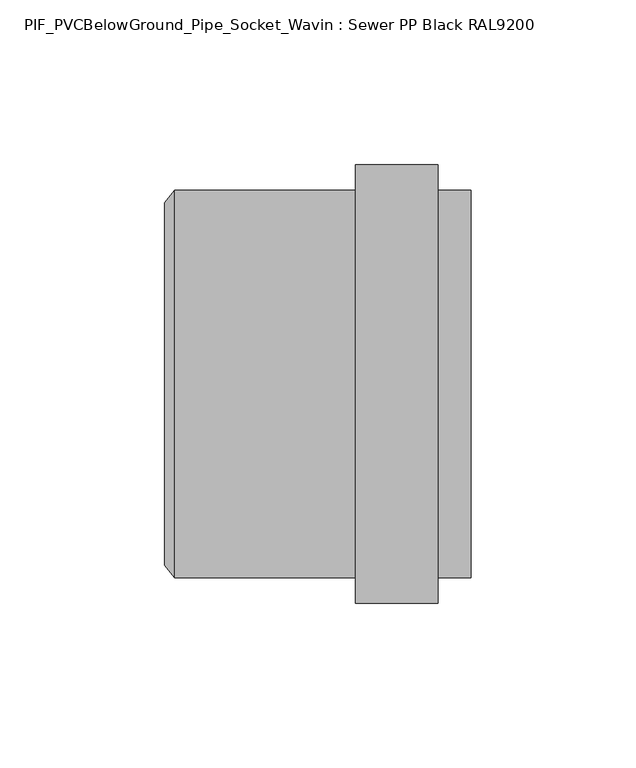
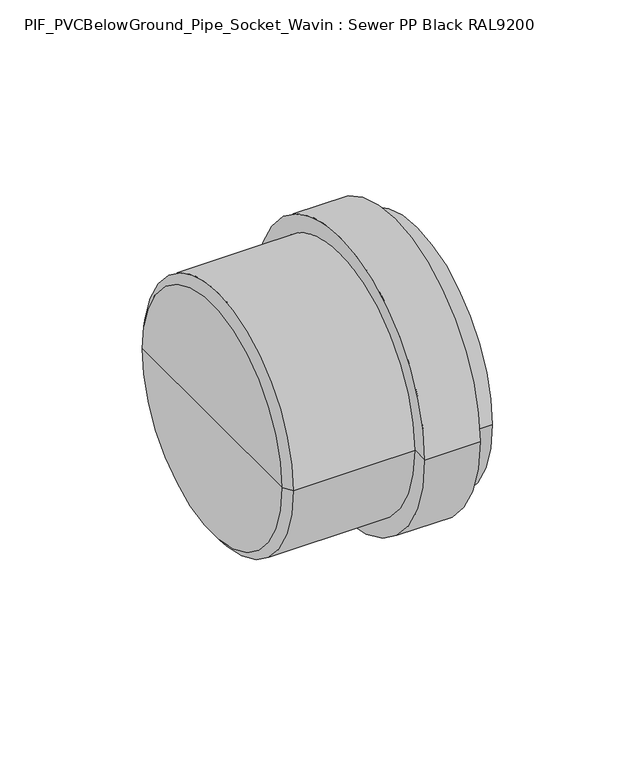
"""IFC4 building model written with IfcOpenShell, lengths in millimetres: pipe fitting geometry, PIF_PVCBelowGround_Pipe_Socket_Wavin : Sewer PP Black RAL9200."""

from ifc_helpers import new_model, si_unit, frame, origin, place, context, project, spatial, polyline, circle_curve, source, transform, mapped, element, save
from ifc_brep_helpers import plane_surface, cylinder_surface, revolved_surface, advanced_brep


def pif_pvcbelowground_pipe_socket_wavin_sewer_pp_black_ral9200_6280af8b(model_context):
    return source(origin(), model_context, "Body", "AdvancedBrep", [
        advanced_brep(
        [(55.0, -66.5, 0.0), (55.0, 66.5, 0.0), (80.0, 66.5, 0.0), (80.0, -66.5, 0.0), (55.0, -58.8, 0.0), (55.0, 58.8, 0.0), (80.0, -58.8, 0.0), (80.0, 58.8, 0.0)],
        [
            (0, 1, circle_curve(frame((55.0, 0.0, 0.0), z_axis=(1.0, 0.0, 0.0), x_axis=(0.0, 1.0, 0.0)), 66.5)),
            (1, 2),
            (2, 3, circle_curve(frame((80.0, 0.0, 0.0), z_axis=(-1.0, 0.0, 0.0), x_axis=(0.0, 1.0, 0.0)), 66.5)),
            (3, 0),
            (1, 0, circle_curve(frame((55.0, 0.0, 0.0), z_axis=(1.0, 0.0, 0.0), x_axis=(0.0, 1.0, 0.0)), 66.5)),
            (3, 2, circle_curve(frame((80.0, 0.0, 0.0), z_axis=(-1.0, 0.0, 0.0), x_axis=(0.0, 1.0, 0.0)), 66.5)),
            (4, 5, circle_curve(frame((55.0, 0.0, 0.0), z_axis=(1.0, 0.0, 0.0), x_axis=(0.0, 1.0, 0.0)), 58.8)),
            (5, 1),
            (0, 4),
            (5, 4, circle_curve(frame((55.0, 0.0, 0.0), z_axis=(1.0, 0.0, 0.0), x_axis=(0.0, 1.0, 0.0)), 58.8)),
            (6, 7, circle_curve(frame((80.0, 0.0, 0.0), z_axis=(1.0, 0.0, 0.0), x_axis=(0.0, 1.0, 0.0)), 58.8)),
            (7, 5),
            (4, 6),
            (7, 6, circle_curve(frame((80.0, 0.0, 0.0), z_axis=(1.0, 0.0, 0.0), x_axis=(0.0, 1.0, 0.0)), 58.8)),
            (2, 7),
            (6, 3),
        ],
        [
            cylinder_surface(frame((2000.3, 0.0, 0.0), z_axis=(-1.0, 0.0, 0.0), x_axis=(0.0, 1.0, 0.0)), 66.5),
            plane_surface(frame((55.0, 0.0, 0.0), z_axis=(-1.0, 0.0, 0.0), x_axis=(0.0, 1.0, 0.0))),
            revolved_surface(polyline([(55.0, 58.8, 0.0), (80.0, 58.8, 0.0)]), (2000.3, 0.0, 0.0), (-1.0, 0.0, 0.0)),
            plane_surface(frame((80.0, 0.0, 0.0), z_axis=(1.0, 0.0, 0.0), x_axis=(0.0, 1.0, 0.0))),
        ],
        [
            (0, [[1, 2, 3, 4]]),
            (0, [[5, -4, 6, -2]]),
            (1, [[7, 8, -1, 9]]),
            (1, [[10, -9, -5, -8]]),
            (2, [[11, 12, -7, 13]]),
            (2, [[14, -13, -10, -12]]),
            (3, [[-3, 15, -11, 16]]),
            (3, [[-6, -16, -14, -15]]),
        ],
    ),
        advanced_brep(
        [(90.0, -58.8, 0.0), (90.0, 58.8, 0.0), (90.0, 55.0, 0.0), (90.0, -55.0, 0.0), (0.0, -58.8, 0.0), (0.0, 58.8, 0.0), (-3.0, -55.0, 0.0), (-3.0, 55.0, 0.0), (-3.0, 0.0, 0.0), (0.0, -55.0, 0.0), (0.0, 55.0, 0.0), (0.0, 0.0, 0.0)],
        [
            (0, 1, circle_curve(frame((90.0, 0.0, 0.0), z_axis=(1.0, 0.0, 0.0), x_axis=(0.0, 1.0, 0.0)), 58.8)),
            (1, 2),
            (2, 3, circle_curve(frame((90.0, 0.0, 0.0), z_axis=(-1.0, 0.0, 0.0), x_axis=(0.0, 1.0, 0.0)), 55.0)),
            (3, 0),
            (1, 0, circle_curve(frame((90.0, 0.0, 0.0), z_axis=(1.0, 0.0, 0.0), x_axis=(0.0, 1.0, 0.0)), 58.8)),
            (3, 2, circle_curve(frame((90.0, 0.0, 0.0), z_axis=(-1.0, 0.0, 0.0), x_axis=(0.0, 1.0, 0.0)), 55.0)),
            (4, 5, circle_curve(frame((0.0, 0.0, 0.0), z_axis=(1.0, 0.0, 0.0), x_axis=(0.0, 1.0, 0.0)), 58.8)),
            (5, 1),
            (0, 4),
            (5, 4, circle_curve(frame((0.0, 0.0, 0.0), z_axis=(1.0, 0.0, 0.0), x_axis=(0.0, 1.0, 0.0)), 58.8)),
            (6, 7, circle_curve(frame((-3.0, 0.0, 0.0), z_axis=(1.0, 0.0, 0.0), x_axis=(0.0, 1.0, 0.0)), 55.0)),
            (7, 5),
            (4, 6),
            (7, 6, circle_curve(frame((-3.0, 0.0, 0.0), z_axis=(1.0, 0.0, 0.0), x_axis=(0.0, 1.0, 0.0)), 55.0)),
            (8, 7),
            (6, 8),
            (9, 10, circle_curve(frame((0.0, 0.0, 0.0), z_axis=(1.0, 0.0, 0.0), x_axis=(0.0, 1.0, 0.0)), 55.0)),
            (10, 11),
            (11, 9),
            (10, 9, circle_curve(frame((0.0, 0.0, 0.0), z_axis=(1.0, 0.0, 0.0), x_axis=(0.0, 1.0, 0.0)), 55.0)),
            (2, 10),
            (9, 3),
        ],
        [
            plane_surface(frame((90.0, 0.0, 0.0), z_axis=(1.0, 0.0, 0.0), x_axis=(0.0, 1.0, 0.0))),
            cylinder_surface(frame((2000.3, 0.0, 0.0), z_axis=(-1.0, 0.0, 0.0), x_axis=(0.0, 1.0, 0.0)), 58.8),
            revolved_surface(polyline([(0.0, 58.8, 0.0), (-3.0, 55.0, 0.0)]), (2000.3, 0.0, 0.0), (-1.0, 0.0, 0.0)),
            plane_surface(frame((-3.0, 0.0, 0.0), z_axis=(-1.0, 0.0, 0.0), x_axis=(0.0, 1.0, 0.0))),
            plane_surface(frame((0.0, 0.0, 0.0), z_axis=(1.0, 0.0, 0.0), x_axis=(0.0, 1.0, 0.0))),
            revolved_surface(polyline([(0.0, 55.0, 0.0), (90.0, 55.0, 0.0)]), (2000.3, 0.0, 0.0), (-1.0, 0.0, 0.0)),
        ],
        [
            (0, [[1, 2, 3, 4]]),
            (0, [[5, -4, 6, -2]]),
            (1, [[7, 8, -1, 9]]),
            (1, [[10, -9, -5, -8]]),
            (2, [[11, 12, -7, 13]]),
            (2, [[14, -13, -10, -12]]),
            (3, [[15, -11, 16]]),
            (3, [[-16, -14, -15]]),
            (4, [[17, 18, 19]]),
            (4, [[20, -19, -18]]),
            (5, [[-3, 21, -17, 22]]),
            (5, [[-6, -22, -20, -21]]),
        ],
    ),
    ])


if __name__ == "__main__":
    model = new_model("IFC4")
    model_context = context("Model", 3, world=origin())
    ifc_project = project(units=[si_unit("LENGTHUNIT", "METRE", prefix="MILLI")], contexts=[model_context])
    site = spatial("IfcSite", under=ifc_project)
    building = spatial("IfcBuilding", under=site)
    placement = place(None, origin())
    pif_pvcbelowground_pipe_socket_wavin_sewer_pp_black_ral9200_shape = pif_pvcbelowground_pipe_socket_wavin_sewer_pp_black_ral9200_6280af8b(model_context)
    element("IfcPipeFitting", 1, ObjectType="PIF_PVCBelowGround_Pipe_Socket_Wavin : Sewer PP Black RAL9200", at=placement, inside=building, context=model_context, shape_type="MappedRepresentation", body=[
        mapped(pif_pvcbelowground_pipe_socket_wavin_sewer_pp_black_ral9200_shape, transform((0.0, 0.0, 0.0), x_axis=(1.0, 0.0, 0.0), y_axis=(0.0, 1.0, 0.0), z_axis=(0.0, 0.0, 1.0))),
    ])
    save(model, "model.ifc")
